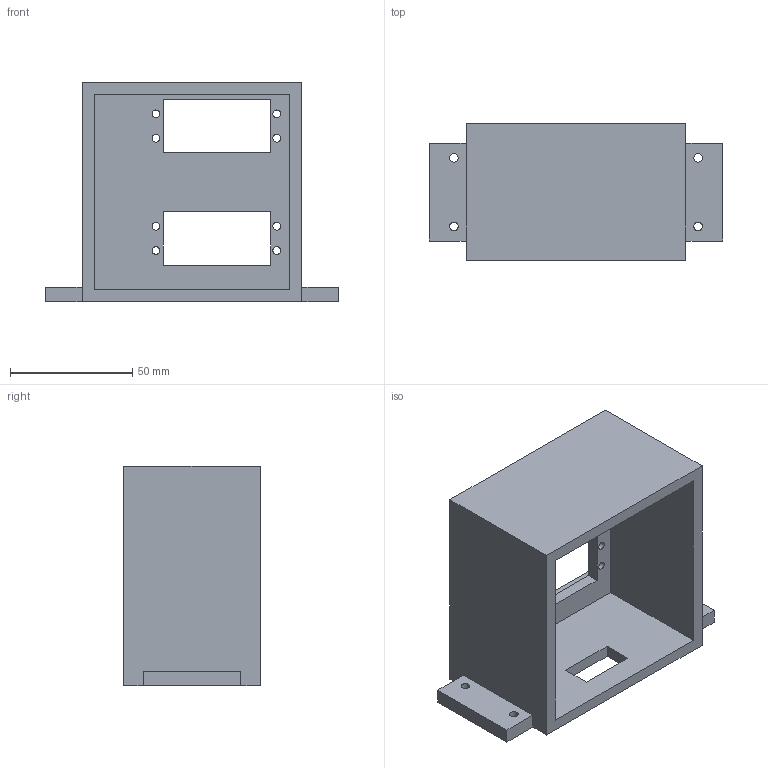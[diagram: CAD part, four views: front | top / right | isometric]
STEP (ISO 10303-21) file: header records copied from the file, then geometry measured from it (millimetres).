
FILE_DESCRIPTION(('Open CASCADE Model'),'2;1');
FILE_NAME('Open CASCADE Shape Model','2026-07-23T16:04:19',('Author'),( 'Open CASCADE'),'Open CASCADE STEP processor 7.9','build123d', 'Unknown');
FILE_SCHEMA(('AUTOMOTIVE_DESIGN { 1 0 10303 214 1 1 1 1 }'));
Length unit declared in the file: millimetre
Products named in the file (1): COMPOUND
Bounding box: 120 x 56 x 90 mm (x, y, z)
Volume: 133575.4 mm3; surface area: 53156.4 mm2
Topology: 1 solids, 1 shells, 53 faces, 144 edges, 96 vertices
Faces by surface type: plane 41, cylinder 12
Full cylindrical faces by diameter (mm): 3.2 x8, 3.5 x4
Entity records: 3570 total; most frequent: CARTESIAN_POINT 760, DIRECTION 466, LINE 302, VECTOR 302, ORIENTED_EDGE 288, PCURVE 288, DEFINITIONAL_REPRESENTATION 288, EDGE_CURVE 144
